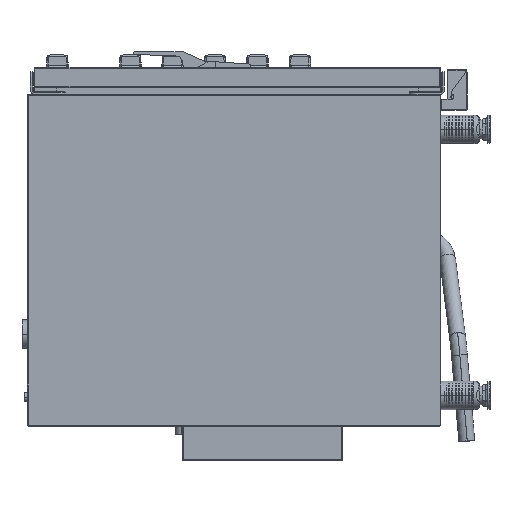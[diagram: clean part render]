
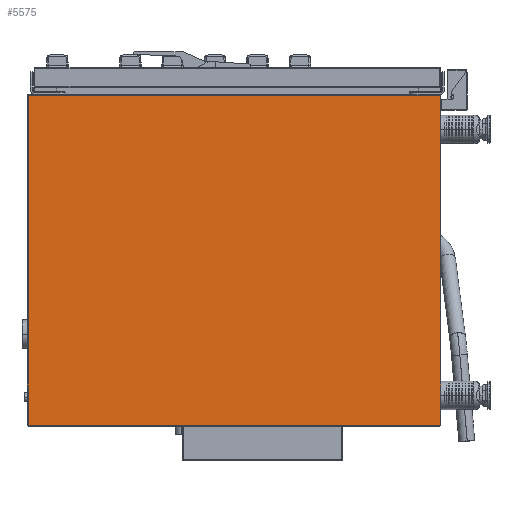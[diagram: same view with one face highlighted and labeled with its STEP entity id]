
A CAD part, left-side view. The second image highlights one B-rep face of the part: STEP entity #5575.
In plain terms, the highlighted planar face has unit normal (-1, 0, 0) as drawn and (1, 0, 0) by its records, which use the part's own axes.
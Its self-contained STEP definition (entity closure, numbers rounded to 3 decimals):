
#1506=DIRECTION('',(0.,-1.,0.));
#1507=VECTOR('',#1506,876.);
#1508=CARTESIAN_POINT('',(473.,437.,350.));
#1509=LINE('',#1508,#1507);
#1510=DIRECTION('',(0.,0.,1.));
#1511=VECTOR('',#1510,700.);
#1512=CARTESIAN_POINT('',(473.,437.,-350.));
#1513=LINE('',#1512,#1511);
#1514=DIRECTION('',(0.,1.,0.));
#1515=VECTOR('',#1514,876.);
#1516=CARTESIAN_POINT('',(473.,-439.,-350.));
#1517=LINE('',#1516,#1515);
#1518=DIRECTION('',(0.,0.,-1.));
#1519=VECTOR('',#1518,700.);
#1520=CARTESIAN_POINT('',(473.,-439.,350.));
#1521=LINE('',#1520,#1519);
#3395=CARTESIAN_POINT('',(473.,437.,350.));
#3396=CARTESIAN_POINT('',(473.,-439.,350.));
#3397=VERTEX_POINT('',#3395);
#3398=VERTEX_POINT('',#3396);
#3409=CARTESIAN_POINT('',(473.,-439.,-350.));
#3410=CARTESIAN_POINT('',(473.,437.,-350.));
#3411=VERTEX_POINT('',#3409);
#3412=VERTEX_POINT('',#3410);
#5561=CARTESIAN_POINT('',(473.,-439.,352.));
#5562=DIRECTION('',(-1.,0.,0.));
#5563=DIRECTION('',(0.,1.,0.));
#5564=AXIS2_PLACEMENT_3D('',#5561,#5562,#5563);
#5565=PLANE('',#5564);
#5567=ORIENTED_EDGE('',*,*,#5566,.F.);
#5569=ORIENTED_EDGE('',*,*,#5568,.F.);
#5571=ORIENTED_EDGE('',*,*,#5570,.F.);
#5572=ORIENTED_EDGE('',*,*,#3930,.F.);
#5573=EDGE_LOOP('',(#5567,#5569,#5571,#5572));
#5574=FACE_OUTER_BOUND('',#5573,.F.);
#3930=EDGE_CURVE('',#3398,#3411,#1521,.T.);
#5566=EDGE_CURVE('',#3397,#3398,#1509,.T.);
#5568=EDGE_CURVE('',#3412,#3397,#1513,.T.);
#5570=EDGE_CURVE('',#3411,#3412,#1517,.T.);
#5575=ADVANCED_FACE('',(#5574),#5565,.F.);
